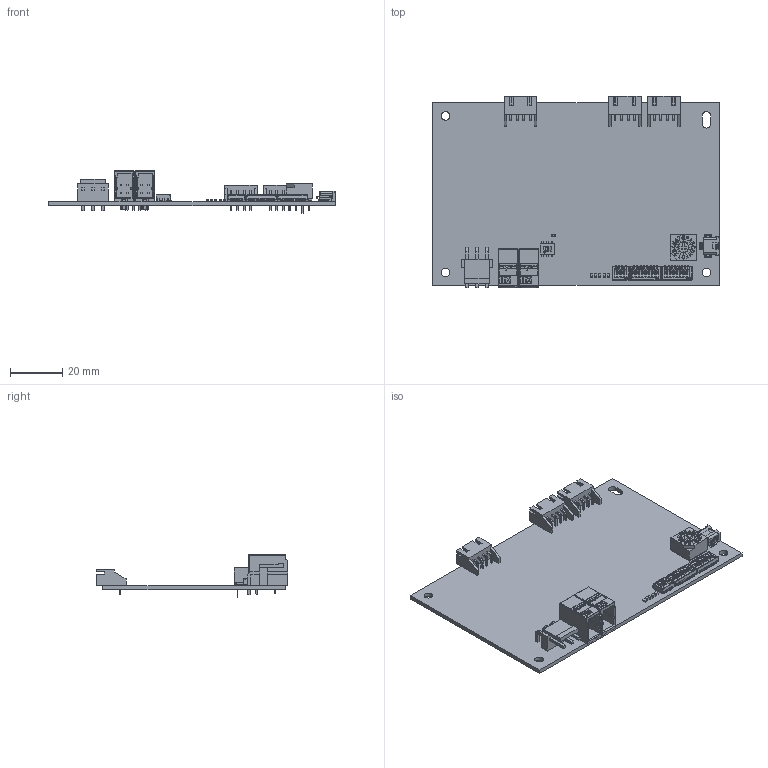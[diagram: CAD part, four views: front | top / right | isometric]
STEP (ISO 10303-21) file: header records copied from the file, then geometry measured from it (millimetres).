
FILE_DESCRIPTION (( 'STEP AP203' ), '1' );
FILE_NAME ('RI-CU-2A_260205.STEP', '2026-02-05T07:06:29', ( '' ), ( '' ), 'SwSTEP 2.0', 'SolidWorks 2022', '' );
FILE_SCHEMA (( 'CONFIG_CONTROL_DESIGN' ));
Length unit declared in the file: millimetre
Products named in the file (21): RI-CU-2A_260205; ロータリスイッチ_S-1010A_0(ﾃﾞﾌｫﾙﾄ); LED_SML-310MT; LED_SML-310YT; _2_pole_s_4; ディップスイッチ_CAS_220TB; _CAS_c_22B_2; S4B-XH-A; ロータリスイッチ_S-1010A_p01; CHS-slider; c-1-1827876-2-d-3d; CHS-04-J-body; レセプタクル_MQ172X-4PA-(66); PCB_RICU_D-1x_230724; _CHS_slider_4; CHS-04TA; コネクタ_B3PS-VH; LED_SML-310LT; ディップスイッチ_CHS-08TA; ロータリスイッチ_S-1010A_p02; _CHS_08_J_body_2
Assembly tree (37 placements, depth 3):
  RI-CU-2A_260205
    PCB_RICU_D-1x_230724
    コネクタ_B3PS-VH
    c-1-1827876-2-d-3d  x2
    レセプタクル_MQ172X-4PA-(66)
    ディップスイッチ_CAS_220TB
      _CAS_c_22B_2
      _2_pole_s_4
    ディップスイッチ_CHS-08TA  x2
      _CHS_08_J_body_2
      _CHS_slider_4
    CHS-04TA
      CHS-slider  x4
      CHS-04-J-body
    ロータリスイッチ_S-1010A_0(ﾃﾞﾌｫﾙﾄ)
      ロータリスイッチ_S-1010A_p01
      ロータリスイッチ_S-1010A_p02
    LED_SML-310MT  x4
    LED_SML-310YT
    LED_SML-310LT
    S4B-XH-A  x3
Bounding box: 110 x 73.55 x 16.3 mm (x, y, z)
Volume: 16384.9 mm3; surface area: 23021.6 mm2
Topology: 46 solids, 55 shells, 3245 faces, 8918 edges, 5920 vertices
Faces by surface type: plane 2351, cylinder 777, bspline 97, torus 16, cone 4
Entity records: 73347 total; most frequent: CARTESIAN_POINT 18385, ORIENTED_EDGE 11138, DIRECTION 10212, EDGE_CURVE 5697, LINE 4500, VECTOR 4500, VERTEX_POINT 3787, AXIS2_PLACEMENT_3D 2856
